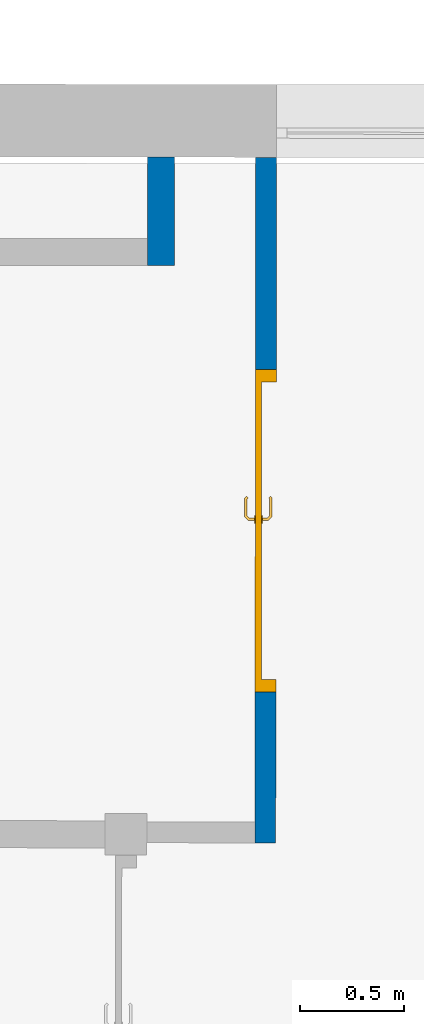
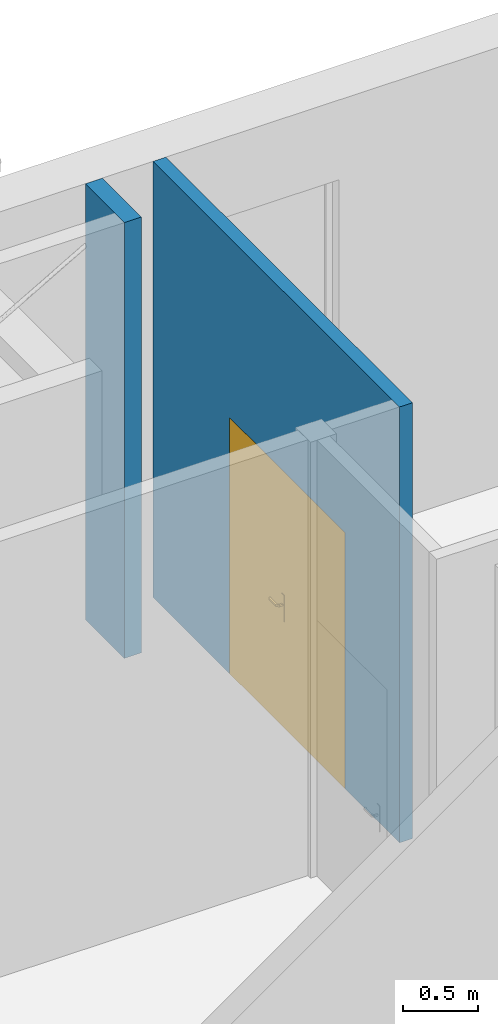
# One storey, part 87 of 101: 2 walls, 1 door, 1 opening.
"""IFC2X3 building model written with IfcOpenShell, lengths in metres."""

from ifc_helpers import new_model, entity, si_unit, converted_unit, derived_unit, direction, frame, frame_2d, origin, place, context, subcontext, project, spatial, rectangle, extrude, faceted_brep, source, transform, mapped, material, material_list, layer, layer_set, layer_usage, type_object, type_shapes, element, fill, save


model = new_model("IFC2X3")

# Units and contexts
model_context = context("Model", 3, precision=1e-05, world=origin(), true_north=direction((6.123233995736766e-17, 1.0)))
body_context = subcontext(model_context, "Body", "Model", "MODEL_VIEW")
ifc_project = project(units=[si_unit("LENGTHUNIT", "METRE"), si_unit("AREAUNIT", "SQUARE_METRE"), converted_unit("PLANEANGLEUNIT", "DEGREE", entity("IfcPlaneAngleMeasure", 0.017453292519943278), si_unit("PLANEANGLEUNIT", "RADIAN"), dimensions=[0, 0, 0, 0, 0, 0, 0]), derived_unit("THERMALTRANSMITTANCEUNIT", [(si_unit("MASSUNIT", "GRAM", prefix="KILO"), 1), (si_unit("THERMODYNAMICTEMPERATUREUNIT", "KELVIN"), -1), (si_unit("TIMEUNIT", "SECOND"), -3)])], contexts=[model_context])

# Site, building, storey
site_placement = place(None, frame((1253.6752467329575, 2072.143113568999, 91.49999999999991), z_axis=(0.0, 0.0, 1.0), x_axis=(0.7237211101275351, 0.6900925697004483, 0.0)))
site = spatial("IfcSite", under=ifc_project, at=site_placement, Name="Surface", CompositionType="ELEMENT")
building_placement = place(site_placement, origin())
building = spatial("IfcBuilding", under=site, at=building_placement, CompositionType="ELEMENT")
storey_placement = place(building_placement, origin())
storey = spatial("IfcBuildingStorey", under=building, at=storey_placement, Name="0- Rdc", CompositionType="ELEMENT", Elevation=-5.764692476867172e-13)

# Wall
ifc_material_1 = material(Name="OMD_Béton blanc")
ifc_layer_1 = layer(ifc_material_1, 0.12999999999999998)
ifc_layer_set_1 = layer_set([ifc_layer_1], Name="Mur de base:MUR 13")
ifc_layer_usage_1 = layer_usage(ifc_layer_set_1, "AXIS2", "NEGATIVE", 0.06499999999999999)
wall_type_1 = type_object("IfcWallType", Name="Mur de base:MUR 13", PredefinedType="STANDARD", material=ifc_layer_set_1)
wall_1_placement = place(storey_placement, frame((195.56932792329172, -0.7948211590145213, 0.0), z_axis=(0.0, 0.0, 1.0), x_axis=(-0.6909838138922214, -0.722870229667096, 0.0)))
element("IfcWallStandardCase", 1, at=wall_1_placement, inside=storey, type_object=wall_type_1, material=ifc_layer_usage_1, Name="Mur de base:MUR 13", ObjectType="Mur de base:MUR 13", context=body_context, shape_type="SweptSolid", body=[
    extrude(rectangle(XDim=0.5213266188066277, YDim=0.1299999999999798, at=frame_2d((0.26066330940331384, 1.734723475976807e-16), x_axis=(-1.0, 0.0))), origin(), (0.0, 0.0, 1.0), 3.5499999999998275),
])

# Wall, opening, door
ifc_layer_2 = layer(ifc_material_1, 0.1)
ifc_layer_set_2 = layer_set([ifc_layer_2], Name="Mur de base:MUR 10")
ifc_layer_usage_2 = layer_usage(ifc_layer_set_2, "AXIS2", "NEGATIVE", 0.05)
wall_type_2 = type_object("IfcWallType", Name="Mur de base:MUR 10", PredefinedType="STANDARD", material=ifc_layer_set_2)
wall_2_placement = place(storey_placement, frame((195.9343773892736, -1.1437679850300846, 0.0), z_axis=(0.0, 0.0, 1.0), x_axis=(-0.6909838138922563, -0.7228702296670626, 0.0)))
wall_2 = element("IfcWallStandardCase", 2, at=wall_2_placement, inside=storey, type_object=wall_type_2, material=ifc_layer_usage_2, Name="Mur de base:MUR 10", ObjectType="Mur de base:MUR 10", context=body_context, shape_type="SweptSolid", body=[
    extrude(rectangle(XDim=3.2963266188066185, YDim=0.10000000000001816, at=frame_2d((1.6481633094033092, -6.418476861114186e-16), x_axis=(-1.0, 0.0))), origin(), (0.0, 0.0, 1.0), 3.5499999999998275),
])
opening_placement = place(wall_2_placement, frame((2.571326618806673, 0.05000000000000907, 0.0)))
opening = element("IfcOpeningElement", 3, at=opening_placement, cuts=wall_2, Name="OMD_Porte 2V tunnel:double 140x204:1", ObjectType="Opening", context=body_context, shape_type="SweptSolid", body=[
    extrude(rectangle(XDim=2.085, YDim=1.5499999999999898, at=frame_2d((1.0425, 0.7749999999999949), x_axis=(1.0, 0.0))), frame((0.0, 0.0, 0.0), z_axis=(0.0, -1.0, 0.0), x_axis=(0.0, 0.0, 1.0)), (0.0, 0.0, 1.0), 0.1),
])
ifc_material_2 = material(Name="<Unnamed>")
ifc_material_3 = material(Name="Porte - Poignée")
ifc_material_4 = material(Name="OMD_Bois")
ifc_material_list = material_list([ifc_material_2, ifc_material_3, ifc_material_4])
door_style = type_object("IfcDoorStyle", Name="OMD_Porte 2V tunnel:double 140x204", ConstructionType="NOTDEFINED", OperationType="NOTDEFINED", ParameterTakesPrecedence=False, Sizeable=False, material=ifc_material_list)
shared_shape = source(origin(), body_context, "Body", "Brep", [
    faceted_brep([(1.504999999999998, 0.03000000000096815, 0.0), (1.504999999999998, 0.0, 0.0), (0.7749999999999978, 0.0, 0.0), (0.7749999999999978, 0.03000000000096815, 0.0), (1.504999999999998, 0.03000000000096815, 2.04), (1.504999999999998, 0.0, 2.04), (0.7749999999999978, 0.0, 2.04), (0.7749999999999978, 0.03000000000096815, 2.04)], [[[0, 1, 2, 3]], [[4, 5, 1, 0]], [[5, 6, 2, 1]], [[6, 7, 3, 2]], [[7, 4, 0, 3]], [[4, 7, 6, 5]]]),
    faceted_brep([(0.7220252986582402, 0.03500000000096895, 1.0077804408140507), (0.7179747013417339, 0.03500000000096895, 1.007780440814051), (0.7139999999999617, 0.03500000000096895, 1.00699999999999), (0.7139999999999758, 0.03500000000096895, 0.9930000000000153), (0.7179747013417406, 0.03500000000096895, 0.9922195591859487), (0.7220252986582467, 0.03500000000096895, 0.9922195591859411), (0.7260000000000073, 0.03500000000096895, 0.9929999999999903), (0.7260000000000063, 0.03500000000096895, 1.006999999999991), (0.7139999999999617, 0.057485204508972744, 1.00699999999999), (0.7139999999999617, 0.05748520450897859, 0.9930000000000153), (0.7179747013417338, 0.05913157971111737, 1.007780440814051), (0.72202529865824, 0.06080939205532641, 1.0077804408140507), (0.7058389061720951, 0.07699578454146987, 1.0077804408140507), (0.7041610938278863, 0.07294518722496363, 1.007780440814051), (0.6207931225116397, 0.07294518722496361, 1.0077804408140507), (0.6191153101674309, 0.07699578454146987, 1.0077804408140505), (0.6114510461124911, 0.06933152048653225, 1.0077804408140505), (0.6143152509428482, 0.06646731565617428, 1.0077804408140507), (0.7260000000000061, 0.06245576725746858, 1.006999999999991), (0.7260000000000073, 0.06245576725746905, 0.9929999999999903), (0.7220252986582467, 0.060809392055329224, 0.9922195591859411), (0.7179747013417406, 0.05913157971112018, 0.9922195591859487), (0.7041610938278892, 0.07294518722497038, 0.9922195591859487), (0.705838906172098, 0.07699578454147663, 0.9922195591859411), (0.6191153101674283, 0.0769957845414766, 0.9922195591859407), (0.620793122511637, 0.07294518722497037, 0.9922195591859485), (0.6143152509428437, 0.0664673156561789, 0.9922195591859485), (0.6114510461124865, 0.06933152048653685, 0.9922195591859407), (0.7025147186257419, 0.06897048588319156, 1.00699999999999), (0.7025147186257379, 0.06897048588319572, 0.9930000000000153), (0.7074852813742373, 0.08097048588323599, 1.006999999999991), (0.7074852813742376, 0.08097048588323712, 0.9929999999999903), (0.6624771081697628, 0.06897048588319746, 1.0069999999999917), (0.6224394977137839, 0.06897048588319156, 1.0069999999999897), (0.622439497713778, 0.06897048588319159, 0.9930000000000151), (0.6624771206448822, 0.0689704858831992, 0.9930000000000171), (0.6624771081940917, 0.07512492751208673, 1.0078781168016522), (0.6573994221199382, 0.08097048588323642, 1.0069999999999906), (0.6174689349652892, 0.08097048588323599, 1.0069999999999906), (0.667554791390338, 0.08097048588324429, 0.9929999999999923), (0.6174689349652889, 0.08097048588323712, 0.99299999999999), (0.6624771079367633, 0.07512492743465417, 0.9921218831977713), (0.6086405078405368, 0.07214205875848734, 1.0069999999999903), (0.6086405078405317, 0.07214205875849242, 0.9929999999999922), (0.6171257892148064, 0.06365677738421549, 0.9930000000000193), (0.6171257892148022, 0.06365677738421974, 1.0069999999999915)], [[[0, 1, 2, 3, 4, 5, 6, 7]], [[8, 9, 3, 2]], [[1, 10, 8, 2]], [[1, 0, 11, 12, 13, 10]], [[14, 15, 16, 17]], [[7, 18, 11, 0]], [[18, 7, 6, 19]], [[6, 5, 20, 19]], [[5, 4, 21, 22, 23, 20]], [[24, 25, 26, 27]], [[4, 3, 9, 21]], [[28, 29, 9, 8]], [[8, 10, 13, 28]], [[18, 30, 12, 11]], [[31, 30, 18, 19]], [[19, 20, 23, 31]], [[21, 9, 29, 22]], [[29, 28, 32, 33, 34, 35]], [[36, 32, 13]], [[37, 38, 15]], [[37, 12, 30]], [[36, 12, 37]], [[14, 32, 36]], [[36, 15, 14]], [[28, 13, 32]], [[32, 14, 33]], [[12, 36, 13]], [[15, 36, 37]], [[30, 31, 39, 40, 38, 37]], [[23, 41, 39]], [[24, 39, 41]], [[39, 31, 23]], [[39, 24, 40]], [[22, 35, 41]], [[41, 23, 22]], [[41, 35, 25]], [[35, 22, 29]], [[34, 25, 35]], [[24, 41, 25]], [[17, 16, 42, 43, 27, 26, 44, 45]], [[45, 44, 34, 33]], [[33, 14, 17, 45]], [[15, 38, 42, 16]], [[43, 42, 38, 40]], [[24, 27, 43, 40]], [[34, 44, 26, 25]]]),
    faceted_brep([(0.7179747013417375, -0.004999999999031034, 1.007780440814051), (0.7220252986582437, -0.004999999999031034, 1.0077804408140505), (0.7260000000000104, -0.004999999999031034, 1.0069999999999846), (0.7260000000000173, -0.004999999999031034, 0.9929999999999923), (0.7220252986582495, -0.004999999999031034, 0.992219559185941), (0.7179747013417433, -0.004999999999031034, 0.9922195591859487), (0.7139999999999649, -0.004999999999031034, 0.9930000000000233), (0.7139999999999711, -0.004999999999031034, 1.006999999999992), (0.7220252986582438, -0.031004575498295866, 1.0077804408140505), (0.7260000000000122, -0.03265095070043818, 1.0069999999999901), (0.7179747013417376, -0.029326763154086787, 1.007780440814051), (0.7042986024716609, -0.043002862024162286, 1.007780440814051), (0.7059764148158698, -0.04705345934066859, 1.0077804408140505), (0.6191424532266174, -0.04705345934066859, 1.0077804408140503), (0.6208202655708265, -0.043002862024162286, 1.0077804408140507), (0.6143423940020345, -0.03652499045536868, 1.0077804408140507), (0.6114781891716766, -0.03938919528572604, 1.0077804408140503), (0.7139999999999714, -0.027680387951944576, 1.006999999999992), (0.7139999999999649, -0.02768038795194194, 0.9930000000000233), (0.7179747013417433, -0.029326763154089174, 0.9922195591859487), (0.7220252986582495, -0.0310045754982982, 0.992219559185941), (0.7059764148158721, -0.04705345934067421, 0.992219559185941), (0.7042986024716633, -0.04300286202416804, 0.9922195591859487), (0.6208202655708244, -0.04300286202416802, 0.9922195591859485), (0.6191424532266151, -0.047053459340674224, 0.9922195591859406), (0.6114781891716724, -0.039389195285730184, 0.9922195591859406), (0.6143423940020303, -0.03652499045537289, 0.9922195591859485), (0.7260000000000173, -0.03265095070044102, 0.9929999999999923), (0.7076227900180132, -0.05102816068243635, 1.0069999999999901), (0.7026522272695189, -0.039028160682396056, 1.006999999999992), (0.7026522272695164, -0.03902816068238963, 0.9930000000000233), (0.7076227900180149, -0.05102816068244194, 0.9929999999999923), (0.6625594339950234, -0.045182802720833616, 1.0078781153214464), (0.667692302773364, -0.051028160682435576, 1.0069999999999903), (0.617496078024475, -0.051028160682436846, 1.00699999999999), (0.6625594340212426, -0.039028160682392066, 1.0069999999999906), (0.6224666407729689, -0.03902816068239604, 1.0069999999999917), (0.6625594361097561, -0.039028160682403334, 0.9930000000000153), (0.6224666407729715, -0.03902816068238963, 0.9930000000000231), (0.6625594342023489, -0.04518280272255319, 0.9921218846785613), (0.6574265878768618, -0.05102816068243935, 0.9929999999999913), (0.6174960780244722, -0.05102816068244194, 0.9929999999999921), (0.6171529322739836, -0.03371445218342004, 0.9930000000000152), (0.6086676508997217, -0.04219973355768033, 0.9929999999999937), (0.6086676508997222, -0.04219973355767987, 1.0069999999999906), (0.6171529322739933, -0.03371445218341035, 1.0069999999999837)], [[[0, 1, 2, 3, 4, 5, 6, 7]], [[2, 1, 8, 9]], [[1, 0, 10, 11, 12, 8]], [[13, 14, 15, 16]], [[0, 7, 17, 10]], [[18, 17, 7, 6]], [[5, 19, 18, 6]], [[5, 4, 20, 21, 22, 19]], [[23, 24, 25, 26]], [[3, 27, 20, 4]], [[9, 27, 3, 2]], [[9, 8, 12, 28]], [[10, 17, 29, 11]], [[30, 29, 17, 18]], [[18, 19, 22, 30]], [[20, 27, 31, 21]], [[28, 31, 27, 9]], [[12, 32, 33]], [[13, 33, 32]], [[33, 28, 12]], [[33, 13, 34]], [[11, 35, 32]], [[32, 12, 11]], [[32, 35, 14]], [[35, 11, 29]], [[36, 14, 35]], [[13, 32, 14]], [[29, 30, 37, 38, 36, 35]], [[39, 37, 22]], [[40, 41, 24]], [[40, 21, 31]], [[39, 21, 40]], [[23, 37, 39]], [[39, 24, 23]], [[30, 22, 37]], [[37, 23, 38]], [[21, 39, 22]], [[24, 39, 40]], [[31, 28, 33, 34, 41, 40]], [[42, 26, 25, 43, 44, 16, 15, 45]], [[13, 16, 44, 34]], [[36, 45, 15, 14]], [[42, 45, 36, 38]], [[38, 23, 26, 42]], [[24, 41, 43, 25]], [[44, 43, 41, 34]]]),
    faceted_brep([(0.7199999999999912, 0.03000000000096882, 0.8646410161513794), (0.7303527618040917, 0.030000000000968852, 0.866003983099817), (0.7399999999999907, 0.030000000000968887, 0.8700000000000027), (0.7399999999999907, 0.030000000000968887, 1.0800000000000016), (0.7303527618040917, 0.030000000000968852, 1.0839960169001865), (0.7199999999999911, 0.03000000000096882, 1.0853589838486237), (0.7096472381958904, 0.03000000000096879, 1.0839960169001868), (0.6999999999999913, 0.030000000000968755, 1.0800000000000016), (0.6999999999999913, 0.030000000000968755, 0.8700000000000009), (0.7096472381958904, 0.03000000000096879, 0.8660039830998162), (0.7199999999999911, 0.035000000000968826, 1.0853589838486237), (0.7303527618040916, 0.03500000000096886, 1.0839960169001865), (0.7399999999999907, 0.03500000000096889, 1.0800000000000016), (0.7399999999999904, 0.03500000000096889, 0.8700000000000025), (0.7303527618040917, 0.03500000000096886, 0.866003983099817), (0.7199999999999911, 0.035000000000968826, 0.8646410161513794), (0.7096472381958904, 0.03500000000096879, 0.8660039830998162), (0.6999999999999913, 0.035000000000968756, 0.8700000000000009), (0.6999999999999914, 0.035000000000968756, 1.0800000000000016), (0.7096472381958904, 0.03500000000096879, 1.0839960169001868)], [[[0, 1, 2, 3, 4, 5, 6, 7, 8, 9]], [[10, 11, 12, 13, 14, 15, 16, 17, 18, 19]], [[6, 19, 18, 7]], [[5, 10, 19, 6]], [[4, 11, 10, 5]], [[4, 3, 12, 11]], [[12, 3, 2, 13]], [[1, 14, 13, 2]], [[0, 15, 14, 1]], [[9, 16, 15, 0]], [[9, 8, 17, 16]], [[17, 8, 7, 18]]]),
    faceted_brep([(0.7199999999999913, -0.0049999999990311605, 0.8646410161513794), (0.7303527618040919, -0.004999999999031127, 0.8660039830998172), (0.7399999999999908, -0.004999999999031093, 0.8700000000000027), (0.7399999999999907, -0.004999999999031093, 1.0800000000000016), (0.7303527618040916, -0.004999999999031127, 1.0839960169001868), (0.7199999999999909, -0.0049999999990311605, 1.0853589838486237), (0.7096472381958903, -0.004999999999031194, 1.0839960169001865), (0.6999999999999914, -0.00499999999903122, 1.0800000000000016), (0.6999999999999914, -0.00499999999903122, 0.8700000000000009), (0.7096472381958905, -0.004999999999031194, 0.8660039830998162), (0.7399999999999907, 0.0, 1.0800000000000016), (0.7399999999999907, 0.0, 0.8700000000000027), (0.7303527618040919, 0.0, 0.8660039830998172), (0.7199999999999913, 0.0, 0.8646410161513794), (0.7096472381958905, 0.0, 0.8660039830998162), (0.6999999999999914, 0.0, 0.8700000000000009), (0.6999999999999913, 0.0, 1.0800000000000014), (0.7096472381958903, 0.0, 1.0839960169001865), (0.7199999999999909, 0.0, 1.0853589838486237), (0.7303527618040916, 0.0, 1.0839960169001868)], [[[0, 1, 2, 3, 4, 5, 6, 7, 8, 9]], [[10, 11, 12, 13, 14, 15, 16, 17, 18, 19]], [[1, 12, 11, 2]], [[0, 13, 12, 1]], [[9, 14, 13, 0]], [[9, 8, 15, 14]], [[15, 8, 7, 16]], [[6, 17, 16, 7]], [[5, 18, 17, 6]], [[4, 19, 18, 5]], [[4, 3, 10, 19]], [[10, 3, 2, 11]]]),
    faceted_brep([(0.7750000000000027, 0.0300000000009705, 0.0), (0.7750000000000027, 0.0, 0.0), (0.04500000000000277, 0.0, 0.0), (0.04500000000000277, 0.0300000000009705, 0.0), (0.7750000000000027, 0.0300000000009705, 2.04), (0.7750000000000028, 0.0, 2.04), (0.04500000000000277, 0.0, 2.04), (0.04500000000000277, 0.0300000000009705, 2.04)], [[[0, 1, 2, 3]], [[4, 5, 1, 0]], [[5, 6, 2, 1]], [[6, 7, 3, 2]], [[7, 4, 0, 3]], [[4, 7, 6, 5]]]),
    faceted_brep([(1.5499999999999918, 0.0, 0.0), (1.5049999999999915, 0.0, 0.0), (1.5049999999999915, 0.0300000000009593, 0.0), (1.4899999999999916, 0.030000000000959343, 0.0), (1.489999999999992, 0.10000000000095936, 0.0), (1.549999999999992, 0.10000000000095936, 0.0), (1.5499999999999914, 0.0, 2.0849999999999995), (0.0, 0.0, 2.0849999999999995), (0.0, 0.0, 0.0), (0.04499999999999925, 0.0, 0.0), (0.04499999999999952, 0.0, 2.0399999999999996), (1.5049999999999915, 0.0, 2.0399999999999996), (1.5049999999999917, 0.0300000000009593, 2.0399999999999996), (0.04499999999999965, 0.030000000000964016, 2.039999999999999), (0.04499999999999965, 0.030000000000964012, 0.0), (0.05999999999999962, 0.030000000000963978, 0.0), (0.05999999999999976, 0.03000000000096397, 2.0249999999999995), (1.4899999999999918, 0.030000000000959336, 2.0249999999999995), (1.489999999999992, 0.10000000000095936, 2.025), (0.05999999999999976, 0.10000000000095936, 2.0249999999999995), (0.05999999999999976, 0.10000000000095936, 0.0), (0.0, 0.10000000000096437, 0.0), (0.0, 0.10000000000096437, 2.0849999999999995), (1.549999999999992, 0.10000000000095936, 2.085)], [[[0, 1, 2, 3, 4, 5]], [[1, 0, 6, 7, 8, 9, 10, 11]], [[2, 1, 11, 12]], [[3, 2, 12, 13, 14, 15, 16, 17]], [[4, 3, 17, 18]], [[5, 4, 18, 19, 20, 21, 22, 23]], [[0, 5, 23, 6]], [[7, 22, 21, 8]], [[8, 21, 20, 15, 14, 9]], [[13, 10, 9, 14]], [[19, 16, 15, 20]], [[12, 11, 10, 13]], [[18, 17, 16, 19]], [[6, 23, 22, 7]]]),
])
type_shapes(door_style, [shared_shape])
door_placement = place(opening_placement, frame((-1.5499999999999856, -0.10000000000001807, 0.0)))
door = element("IfcDoor", 4, at=door_placement, inside=storey, type_object=door_style, material=ifc_material_list, Name="OMD_Porte 2V tunnel:double 140x204", ObjectType="OMD_Porte 2V tunnel:double 140x204", OverallHeight=2.085, OverallWidth=1.5500000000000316, context=body_context, shape_type="MappedRepresentation", body=[
    mapped(shared_shape, transform((0.0, 0.0, 0.0), scale=1.0)),
])
fill(opening, door)

save(model, "model.ifc")
